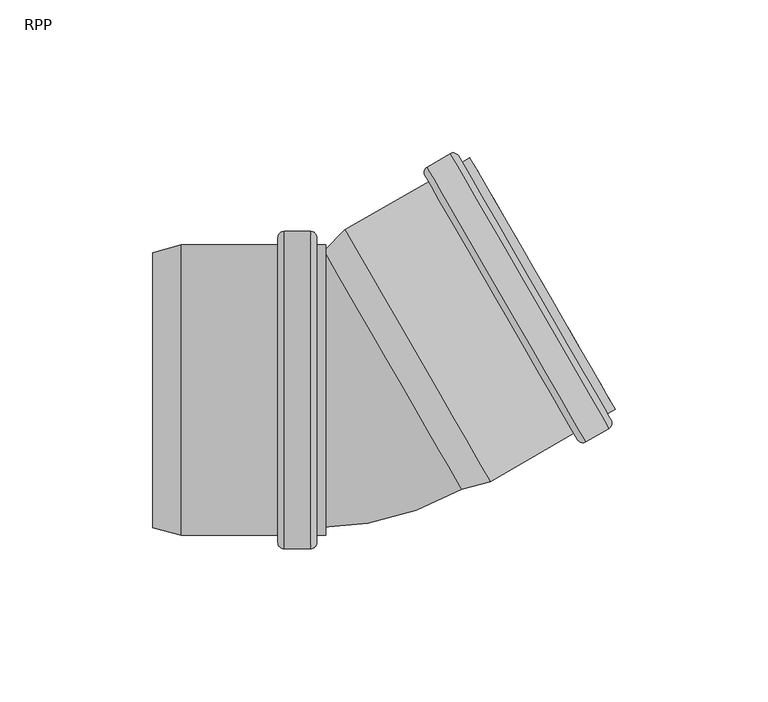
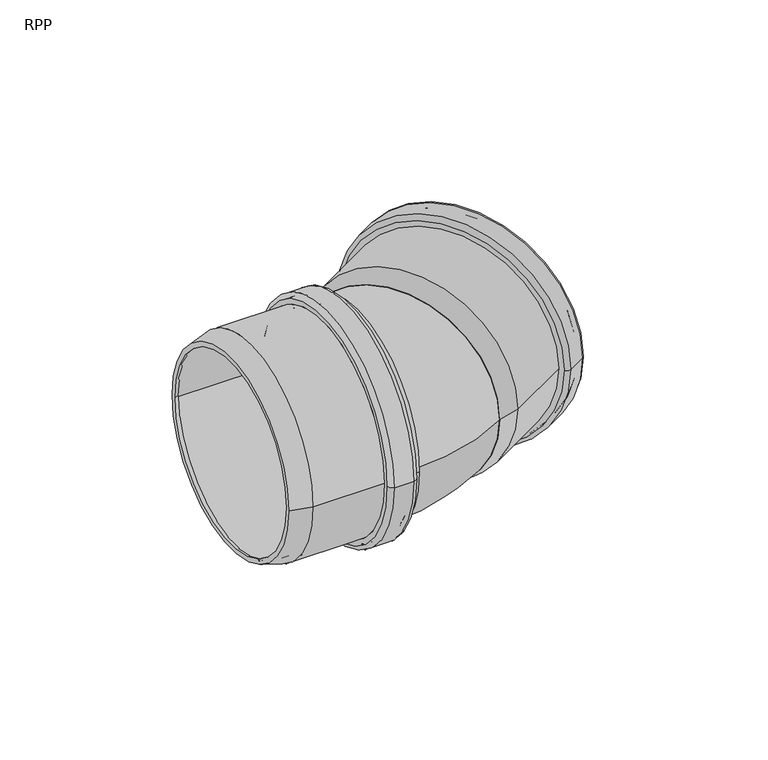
"""IFC4 building model written with IfcOpenShell, lengths in millimetres: pipe fitting geometry, RAUPIANO PLUS Bend : RPP."""

import ifcopenshell
import ifcopenshell.guid

model = None  # the IFC model being written
_history = None  # IfcOwnerHistory: only IFC2X3 demands one
_inside = {}  # id of a spatial element -> (the spatial element, [elements in it])
_under = {}  # id of a project, library or spatial element -> (it, [spatial elements below it])
_declared = {}  # id of a project -> (the project, [libraries it declares])
_typed = {}  # id of a type object -> (the type object, [elements of that type])
_made_of = {}  # id of a material, layer set ... -> (it, [elements and type objects made of it])


def new_model(schema):
    """Start an empty IFC model of exactly this schema.

    Asked for "IFC4X3", IfcOpenShell would pick the latest addendum, in which some entities
    have other attributes; the version numbers below select the first issue.
    IFC2X3 requires an IfcOwnerHistory on every rooted entity: one is made here for all.
    """
    global model, _history
    if schema == "IFC4X3":
        model = ifcopenshell.file(schema_version=(4, 3, 0, 0))
    else:
        model = ifcopenshell.file(schema=schema)
    _inside.clear()
    _under.clear()
    _declared.clear()
    _typed.clear()
    _made_of.clear()
    _history = None
    if model.schema == "IFC2X3":
        org = make("IfcOrganization", Name="unknown")
        user = make(
            "IfcPersonAndOrganization",
            ThePerson=make("IfcPerson", FamilyName="unknown"),
            TheOrganization=org,
        )
        app = make(
            "IfcApplication",
            ApplicationDeveloper=org,
            Version="unknown",
            ApplicationFullName="unknown",
            ApplicationIdentifier="unknown",
        )
        _history = make(
            "IfcOwnerHistory",
            OwningUser=user,
            OwningApplication=app,
            ChangeAction="ADDED",
            CreationDate=0,
        )
    return model


def make(cls, **values):
    """One entity of the class cls with the attributes given. An attribute that is None is left unset."""
    return model.create_entity(
        cls, **{name: value for name, value in values.items() if value is not None}
    )


def rooted(cls, **values):
    """An entity with a GlobalId (a new one), such as an element, a storey or a relation."""
    return make(cls, GlobalId=ifcopenshell.guid.new(), OwnerHistory=_history, **values)


def si_unit(unit_type, name, prefix=None):
    """IfcSIUnit, for example si_unit("LENGTHUNIT", "METRE", prefix="MILLI")."""
    return make("IfcSIUnit", UnitType=unit_type, Prefix=prefix, Name=name)


def assignment(units):
    """IfcUnitAssignment: the units of a project."""
    return None if units is None else make("IfcUnitAssignment", Units=units)


def point(xyz):
    """IfcCartesianPoint."""
    return None if xyz is None else make("IfcCartesianPoint", Coordinates=xyz)


def direction(xyz):
    """IfcDirection."""
    return None if xyz is None else make("IfcDirection", DirectionRatios=xyz)


def frame(location, z_axis=None, x_axis=None):
    """IfcAxis2Placement3D, a coordinate frame: its origin and axes. An axis left out is left unset."""
    return make(
        "IfcAxis2Placement3D",
        Location=point(location),
        Axis=direction(z_axis),
        RefDirection=direction(x_axis),
    )


def origin():
    """The frame at (0, 0, 0) with its axes left unset."""
    return frame((0.0, 0.0, 0.0))


def place(relative_to, where):
    """IfcLocalPlacement: puts the frame where relative to a parent placement (None: the world)."""
    return make(
        "IfcLocalPlacement", PlacementRelTo=relative_to, RelativePlacement=where
    )


def context(
    kind, dimensions, precision=None, world=None, true_north=None, identifier=None
):
    """IfcGeometricRepresentationContext, for example the 3D "Model" context."""
    return make(
        "IfcGeometricRepresentationContext",
        ContextIdentifier=identifier,
        ContextType=kind,
        CoordinateSpaceDimension=dimensions,
        Precision=precision,
        WorldCoordinateSystem=world,
        TrueNorth=true_north,
    )


def project(units=None, contexts=None):
    """IfcProject with its units and contexts."""
    return rooted(
        "IfcProject",
        Name="project",
        RepresentationContexts=contexts,
        UnitsInContext=assignment(units),
    )


def spatial(cls, under=None, at=None, **own):
    """A site, building, storey or space (cls), placed at a placement, below another one or the project."""
    s = rooted(cls, ObjectPlacement=at, **own)
    if under is not None:
        _under.setdefault(under.id(), (under, []))[1].append(s)
    return s


def polyline(points):
    """IfcPolyline through the points."""
    return make("IfcPolyline", Points=[point(p) for p in points])


def circle_curve(where, radius):
    """IfcCircle in the frame where."""
    return make("IfcCircle", Position=where, Radius=radius)


def ellipse_curve(where, semi_axis1, semi_axis2):
    """IfcEllipse in the frame where."""
    return make(
        "IfcEllipse", Position=where, SemiAxis1=semi_axis1, SemiAxis2=semi_axis2
    )


def trimmed(basis, trim1, trim2, sense, master):
    """IfcTrimmedCurve: the piece of a basis curve between two trims."""
    return make(
        "IfcTrimmedCurve",
        BasisCurve=basis,
        Trim1=trim1,
        Trim2=trim2,
        SenseAgreement=sense,
        MasterRepresentation=master,
    )


def shape(context_of_items, identifier, shape_type, items):
    """IfcShapeRepresentation: the items that make up one representation, for example the "Body"."""
    return make(
        "IfcShapeRepresentation",
        ContextOfItems=context_of_items,
        RepresentationIdentifier=identifier,
        RepresentationType=shape_type,
        Items=items,
    )


def source(mapping_origin, context_of_items, identifier, shape_type, items):
    """IfcRepresentationMap: a shape defined once, which mapped items show again and again."""
    return make(
        "IfcRepresentationMap",
        MappingOrigin=mapping_origin,
        MappedRepresentation=shape(context_of_items, identifier, shape_type, items),
    )


def transform(
    local_origin,
    x_axis=None,
    y_axis=None,
    z_axis=None,
    scale=None,
    scale2=None,
    scale3=None,
    uniform=True,
):
    """IfcCartesianTransformationOperator3D, or its non-uniform kind. x_axis, y_axis, z_axis: its Axis1, 2, 3."""
    if uniform:
        return make(
            "IfcCartesianTransformationOperator3D",
            Axis1=direction(x_axis),
            Axis2=direction(y_axis),
            LocalOrigin=point(local_origin),
            Scale=scale,
            Axis3=direction(z_axis),
        )
    return make(
        "IfcCartesianTransformationOperator3DnonUniform",
        Axis1=direction(x_axis),
        Axis2=direction(y_axis),
        LocalOrigin=point(local_origin),
        Scale=scale,
        Axis3=direction(z_axis),
        Scale2=scale2,
        Scale3=scale3,
    )


def mapped(mapping_source, mapping_target):
    """IfcMappedItem: shows the shape of a source again, moved by a transform."""
    return make(
        "IfcMappedItem", MappingSource=mapping_source, MappingTarget=mapping_target
    )


def made_of(thing, what):
    """Note that an element or type object is made of a material, layer set ...; save() writes the relation."""
    if what is not None:
        _made_of.setdefault(what.id(), (what, []))[1].append(thing)
    return thing


def element(
    cls,
    number,
    at=None,
    inside=None,
    cuts=None,
    type_object=None,
    material=None,
    context=None,
    identifier="Body",
    shape_type=None,
    held_by="IfcProductDefinitionShape",
    body=None,
    shapes=None,
    **own,
):
    """One element of the class cls, such as IfcWall. Its Tag is "e" and its number.

    at: its placement. inside: the storey or other place that contains it. cuts: it is an
    opening in that element (IfcRelVoidsElement). A single representation is given by context,
    identifier, shape_type and body (its items); several are given by shapes. held_by: the class
    of the entity that holds the representations. save() writes the other relations.
    """
    e = rooted(cls, Tag="e%d" % number, ObjectPlacement=at, **own)
    if body is not None:
        shapes = [shape(context, identifier, shape_type, body)]
    if shapes is not None:
        e.Representation = make(held_by, Representations=shapes)
    if inside is not None:
        _inside.setdefault(inside.id(), (inside, []))[1].append(e)
    if cuts is not None:
        rooted(
            "IfcRelVoidsElement", RelatingBuildingElement=cuts, RelatedOpeningElement=e
        )
    if type_object is not None:
        _typed.setdefault(type_object.id(), (type_object, []))[1].append(e)
    return made_of(e, material)


def aggregate(whole, parts):
    """IfcRelAggregates: a whole, such as a stair, and the parts it consists of."""
    return rooted("IfcRelAggregates", RelatingObject=whole, RelatedObjects=parts)


def save(model, path):
    """Write the relations noted so far, then the file.

    IfcRelAggregates (storeys below a building ...), IfcRelContainedInSpatialStructure (elements
    in a storey), IfcRelDefinesByType, IfcRelAssociatesMaterial and IfcRelDeclares: one each for
    every whole, place, type object, material and project.
    """
    for whole, parts in _under.values():
        aggregate(whole, parts)
    for where, things in _inside.values():
        rooted(
            "IfcRelContainedInSpatialStructure",
            RelatedElements=things,
            RelatingStructure=where,
        )
    for kind, things in _typed.values():
        rooted("IfcRelDefinesByType", RelatedObjects=things, RelatingType=kind)
    for what, things in _made_of.values():
        rooted("IfcRelAssociatesMaterial", RelatedObjects=things, RelatingMaterial=what)
    for by, libraries in _declared.values():
        rooted("IfcRelDeclares", RelatingContext=by, RelatedDefinitions=libraries)
    model.write(path)


def plane_surface(at):
    """IfcPlane: the flat surface through the origin of the frame at, square to its z axis."""
    return make("IfcPlane", Position=at)


def cylinder_surface(at, radius):
    """IfcCylindricalSurface: all points at the distance radius from the z axis of the frame at."""
    return make("IfcCylindricalSurface", Position=at, Radius=radius)


def revolved_surface(curve, axis_point, axis_direction):
    """IfcSurfaceOfRevolution: the curve turned about the line through axis_point along axis_direction."""
    return make(
        "IfcSurfaceOfRevolution",
        SweptCurve=make("IfcArbitraryOpenProfileDef", ProfileType="CURVE", Curve=curve),
        AxisPosition=make("IfcAxis1Placement", Location=point(axis_point), Axis=direction(axis_direction)),
    )


def advanced_brep(points, edges, surfaces, faces):
    """IfcAdvancedBrep: a solid bounded by faces that lie on surfaces and meet in shared edges.

    An edge is (start, end): straight between two places in points (the first is 0);
    or (start, end, curve); or (start, end, curve, False) where it runs against its curve.
    A face is (place in surfaces, loops), or (place, loops, False) where it looks against
    its surface's normal. A loop lists edges by number (the first is 1), with a minus sign
    where the edge is run from its end to its start. The first loop is the outer one.
    """
    corners = [point(p) for p in points]
    vertices = [make("IfcVertexPoint", VertexGeometry=c) for c in corners]
    made = []
    for start, end, *more in edges:
        made.append(
            make(
                "IfcEdgeCurve",
                EdgeStart=vertices[start],
                EdgeEnd=vertices[end],
                EdgeGeometry=more[0] if more else make("IfcPolyline", Points=[corners[start], corners[end]]),
                SameSense=more[1] if len(more) > 1 else True,
            )
        )
    hull = []
    for where, loops, *sense in faces:
        bounds = []
        for j, loop in enumerate(loops):
            ring = [make("IfcOrientedEdge", EdgeElement=made[abs(k) - 1], Orientation=k > 0) for k in loop]
            bounds.append(
                make(
                    "IfcFaceOuterBound" if j == 0 else "IfcFaceBound",
                    Bound=make("IfcEdgeLoop", EdgeList=ring),
                    Orientation=True,
                )
            )
        hull.append(make("IfcAdvancedFace", Bounds=bounds, FaceSurface=surfaces[where], SameSense=sense[0] if sense else True))
    return make("IfcAdvancedBrep", Outer=make("IfcClosedShell", CfsFaces=hull))


def rpp_570f9ba4(model_context):
    return source(origin(), model_context, "Body", "AdvancedBrep", [
        advanced_brep(
        [(-24.0295104, -45.3, 0.0), (-24.0295104, 45.3, 0.0), (-57.5097479, 45.3, 0.0), (-57.5097479, -45.3, 0.0), (-23.5295104, -49.7, 0.0), (-23.5295104, 49.7, 0.0), (-24.0295104, 49.2, 0.0), (-24.0295104, -49.2, 0.0), (-16.2295104, -49.7, 0.0), (-16.2295104, 49.7, 0.0), (-15.7295104, -49.2, 0.0), (-15.7295104, 49.2, 0.0), (-10.6295104, -45.3, 0.0), (-10.6295104, 45.3, 0.0), (-15.7295104, 45.3, 0.0), (-15.7295104, -45.3, 0.0), (-13.5295104, -47.5, 0.0), (-13.5295104, 47.5, 0.0), (-10.6295104, 47.5, 0.0), (-10.6295104, -47.5, 0.0), (-15.5295104, -51.9, 0.0), (-15.5295104, 51.9, 0.0), (-13.5295104, 49.9, 0.0), (-13.5295104, -49.9, 0.0), (-24.2295104, -51.9, 0.0), (-24.2295104, 51.9, 0.0), (-26.2295104, -49.9, 0.0), (-26.2295104, 49.9, 0.0), (-57.7993834, -47.5, 0.0), (-57.7993834, 47.5, 0.0), (-26.2295104, 47.5, 0.0), (-26.2295104, -47.5, 0.0), (-67.1295104, -45.0, 0.0), (-67.1295104, 45.0, 0.0), (-67.1295104, 42.7223924, 0.0), (-67.1295104, -42.7223924, 0.0)],
        [
            (0, 1, circle_curve(frame((-24.0295104, 0.0, 0.0), z_axis=(1.0, 0.0, 0.0), x_axis=(0.0, 1.0, 0.0)), 45.3)),
            (1, 2),
            (2, 3, circle_curve(frame((-57.5097479, 0.0, 0.0), z_axis=(-1.0, 0.0, 0.0), x_axis=(0.0, 1.0, 0.0)), 45.3)),
            (3, 0),
            (4, 5, circle_curve(frame((-23.5295104, 0.0, 0.0), z_axis=(1.0, 0.0, 0.0), x_axis=(0.0, 1.0, 0.0)), 49.7)),
            (5, 6, circle_curve(frame((-23.5295104, 49.2, 0.0), z_axis=(0.0, 0.0, 1.0), x_axis=(0.0, -1.0, 0.0)), 0.5)),
            (6, 7, circle_curve(frame((-24.0295104, 0.0, 0.0), z_axis=(-1.0, 0.0, 0.0), x_axis=(0.0, 1.0, 0.0)), 49.2)),
            (7, 4, circle_curve(frame((-23.5295104, -49.2, 0.0), z_axis=(0.0, 0.0, 1.0), x_axis=(0.0, 1.0, 0.0)), 0.5)),
            (8, 9, circle_curve(frame((-16.2295104, 0.0, 0.0), z_axis=(1.0, 0.0, 0.0), x_axis=(0.0, 1.0, 0.0)), 49.7)),
            (9, 5),
            (4, 8),
            (10, 11, circle_curve(frame((-15.7295104, 0.0, 0.0), z_axis=(1.0, 0.0, 0.0), x_axis=(0.0, 1.0, 0.0)), 49.2)),
            (11, 9, circle_curve(frame((-16.2295104, 49.2, 0.0), z_axis=(0.0, 0.0, 1.0), x_axis=(0.0, -1.0, 0.0)), 0.5)),
            (8, 10, circle_curve(frame((-16.2295104, -49.2, 0.0), z_axis=(0.0, 0.0, 1.0), x_axis=(0.0, 1.0, 0.0)), 0.5)),
            (12, 13, circle_curve(frame((-10.6295104, 0.0, 0.0), z_axis=(1.0, 0.0, 0.0), x_axis=(0.0, 1.0, 0.0)), 45.3)),
            (13, 14),
            (14, 15, circle_curve(frame((-15.7295104, 0.0, 0.0), z_axis=(-1.0, 0.0, 0.0), x_axis=(0.0, 1.0, 0.0)), 45.3)),
            (15, 12),
            (16, 17, circle_curve(frame((-13.5295104, 0.0, 0.0), z_axis=(1.0, 0.0, 0.0), x_axis=(0.0, 1.0, 0.0)), 47.5)),
            (17, 18),
            (18, 19, circle_curve(frame((-10.6295104, 0.0, 0.0), z_axis=(-1.0, 0.0, 0.0), x_axis=(0.0, 1.0, 0.0)), 47.5)),
            (19, 16),
            (20, 21, circle_curve(frame((-15.5295104, 0.0, 0.0), z_axis=(1.0, 0.0, 0.0), x_axis=(0.0, 1.0, 0.0)), 51.9)),
            (21, 22, circle_curve(frame((-15.5295104, 49.9, 0.0), z_axis=(0.0, 0.0, -1.0), x_axis=(0.0, -1.0, 0.0)), 2.0)),
            (22, 23, circle_curve(frame((-13.5295104, 0.0, 0.0), z_axis=(-1.0, 0.0, 0.0), x_axis=(0.0, 1.0, 0.0)), 49.9)),
            (23, 20, circle_curve(frame((-15.5295104, -49.9, 0.0), z_axis=(0.0, 0.0, -1.0), x_axis=(0.0, 1.0, 0.0)), 2.0)),
            (24, 25, circle_curve(frame((-24.2295104, 0.0, 0.0), z_axis=(1.0, 0.0, 0.0), x_axis=(0.0, 1.0, 0.0)), 51.9)),
            (25, 21),
            (20, 24),
            (26, 27, circle_curve(frame((-26.2295104, 0.0, 0.0), z_axis=(1.0, 0.0, 0.0), x_axis=(0.0, 1.0, 0.0)), 49.9)),
            (27, 25, circle_curve(frame((-24.2295104, 49.9, 0.0), z_axis=(0.0, 0.0, -1.0), x_axis=(0.0, -1.0, 0.0)), 2.0)),
            (24, 26, circle_curve(frame((-24.2295104, -49.9, 0.0), z_axis=(0.0, 0.0, -1.0), x_axis=(0.0, 1.0, 0.0)), 2.0)),
            (28, 29, circle_curve(frame((-57.7993834, 0.0, 0.0), z_axis=(1.0, 0.0, 0.0), x_axis=(0.0, 1.0, 0.0)), 47.5)),
            (29, 30),
            (30, 31, circle_curve(frame((-26.2295104, 0.0, 0.0), z_axis=(-1.0, 0.0, 0.0), x_axis=(0.0, 1.0, 0.0)), 47.5)),
            (31, 28),
            (32, 33, circle_curve(frame((-67.1295104, 0.0, 0.0), z_axis=(1.0, 0.0, 0.0), x_axis=(0.0, 1.0, 0.0)), 45.0)),
            (33, 29),
            (28, 32),
            (2, 34),
            (34, 35, circle_curve(frame((-67.1295104, 0.0, 0.0), z_axis=(-1.0, 0.0, 0.0), x_axis=(0.0, 1.0, 0.0)), 42.7223924)),
            (35, 3),
            (1, 0, circle_curve(frame((-24.0295104, 0.0, 0.0), z_axis=(1.0, 0.0, 0.0), x_axis=(0.0, -1.0, 0.0)), 45.3)),
            (3, 2, circle_curve(frame((-57.5097479, 0.0, 0.0), z_axis=(-1.0, 0.0, 0.0), x_axis=(0.0, -1.0, 0.0)), 45.3)),
            (6, 7, circle_curve(frame((-24.0295104, 0.0, 0.0), z_axis=(1.0, 0.0, 0.0), x_axis=(0.0, -1.0, 0.0)), 49.2)),
            (5, 4, circle_curve(frame((-23.5295104, 0.0, 0.0), z_axis=(1.0, 0.0, 0.0), x_axis=(0.0, -1.0, 0.0)), 49.7)),
            (9, 8, circle_curve(frame((-16.2295104, 0.0, 0.0), z_axis=(1.0, 0.0, 0.0), x_axis=(0.0, -1.0, 0.0)), 49.7)),
            (11, 10, circle_curve(frame((-15.7295104, 0.0, 0.0), z_axis=(1.0, 0.0, 0.0), x_axis=(0.0, -1.0, 0.0)), 49.2)),
            (14, 15, circle_curve(frame((-15.7295104, 0.0, 0.0), z_axis=(1.0, 0.0, 0.0), x_axis=(0.0, -1.0, 0.0)), 45.3)),
            (13, 12, circle_curve(frame((-10.6295104, 0.0, 0.0), z_axis=(1.0, 0.0, 0.0), x_axis=(0.0, -1.0, 0.0)), 45.3)),
            (18, 19, circle_curve(frame((-10.6295104, 0.0, 0.0), z_axis=(1.0, 0.0, 0.0), x_axis=(0.0, -1.0, 0.0)), 47.5)),
            (17, 16, circle_curve(frame((-13.5295104, 0.0, 0.0), z_axis=(1.0, 0.0, 0.0), x_axis=(0.0, -1.0, 0.0)), 47.5)),
            (22, 23, circle_curve(frame((-13.5295104, 0.0, 0.0), z_axis=(1.0, 0.0, 0.0), x_axis=(0.0, -1.0, 0.0)), 49.9)),
            (21, 20, circle_curve(frame((-15.5295104, 0.0, 0.0), z_axis=(1.0, 0.0, 0.0), x_axis=(0.0, -1.0, 0.0)), 51.9)),
            (25, 24, circle_curve(frame((-24.2295104, 0.0, 0.0), z_axis=(1.0, 0.0, 0.0), x_axis=(0.0, -1.0, 0.0)), 51.9)),
            (27, 26, circle_curve(frame((-26.2295104, 0.0, 0.0), z_axis=(1.0, 0.0, 0.0), x_axis=(0.0, -1.0, 0.0)), 49.9)),
            (30, 31, circle_curve(frame((-26.2295104, 0.0, 0.0), z_axis=(1.0, 0.0, 0.0), x_axis=(0.0, -1.0, 0.0)), 47.5)),
            (29, 28, circle_curve(frame((-57.7993834, 0.0, 0.0), z_axis=(1.0, 0.0, 0.0), x_axis=(0.0, -1.0, 0.0)), 47.5)),
            (33, 32, circle_curve(frame((-67.1295104, 0.0, 0.0), z_axis=(1.0, 0.0, 0.0), x_axis=(0.0, -1.0, 0.0)), 45.0)),
            (34, 35, circle_curve(frame((-67.1295104, 0.0, 0.0), z_axis=(1.0, 0.0, 0.0), x_axis=(0.0, -1.0, 0.0)), 42.7223924)),
        ],
        [
            revolved_surface(polyline([(-57.5097479, 45.3, 0.0), (-24.0295104, 45.3, 0.0)]), (-67.1295104, 0.0, 0.0), (-1.0, 0.0, 0.0)),
            revolved_surface(trimmed(ellipse_curve(frame((-23.5295104, 49.2, 0.0), z_axis=(0.0, 0.0, -1.0), x_axis=(0.0, -1.0, 0.0)), 0.5, 0.5), [point((-24.0295104, 49.2, 0.0))], [point((-23.5295104, 49.7, 0.0))], True, "CARTESIAN"), (-67.1295104, 0.0, 0.0), (-1.0, 0.0, 0.0)),
            revolved_surface(polyline([(-23.5295104, 49.7, 0.0), (-16.229510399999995, 49.7, 0.0)]), (-67.1295104, 0.0, 0.0), (-1.0, 0.0, 0.0)),
            revolved_surface(trimmed(ellipse_curve(frame((-16.2295104, 49.2, 0.0), z_axis=(0.0, 0.0, -1.0), x_axis=(0.0, -1.0, 0.0)), 0.5, 0.5), [point((-16.2295104, 49.7, 0.0))], [point((-15.7295104, 49.2, 0.0))], True, "CARTESIAN"), (-67.1295104, 0.0, 0.0), (-1.0, 0.0, 0.0)),
            revolved_surface(polyline([(-15.729510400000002, 45.3, 0.0), (-10.629510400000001, 45.3, 0.0)]), (-67.1295104, 0.0, 0.0), (-1.0, 0.0, 0.0)),
            cylinder_surface(frame((-67.1295104, 0.0, 0.0), z_axis=(-1.0, 0.0, 0.0), x_axis=(0.0, 1.0, 0.0)), 47.5),
            revolved_surface(trimmed(ellipse_curve(frame((-15.5295104, 49.9, 0.0), z_axis=(0.0, 0.0, 1.0), x_axis=(0.0, -1.0, 0.0)), 2.0, 2.0), [point((-13.5295104, 49.9, 0.0))], [point((-15.5295104, 51.9, 0.0))], True, "CARTESIAN"), (-67.1295104, 0.0, 0.0), (-1.0, 0.0, 0.0)),
            cylinder_surface(frame((-67.1295104, 0.0, 0.0), z_axis=(-1.0, 0.0, 0.0), x_axis=(0.0, 1.0, 0.0)), 51.9),
            revolved_surface(trimmed(ellipse_curve(frame((-24.2295104, 49.9, 0.0), z_axis=(0.0, 0.0, 1.0), x_axis=(0.0, -1.0, 0.0)), 2.0, 2.0), [point((-24.2295104, 51.9, 0.0))], [point((-26.2295104, 49.9, 0.0))], True, "CARTESIAN"), (-67.1295104, 0.0, 0.0), (-1.0, 0.0, 0.0)),
            revolved_surface(polyline([(-57.7993834, 47.5, 0.0), (-67.1295104, 45.0, 0.0)]), (-67.1295104, 0.0, 0.0), (-1.0, 0.0, 0.0)),
            revolved_surface(polyline([(-67.1295104, 42.7223924, 0.0), (-57.5097479, 45.3, 0.0)]), (-67.1295104, 0.0, 0.0), (-1.0, 0.0, 0.0)),
            revolved_surface(polyline([(-57.5097479, -45.3, 0.0), (-24.0295104, -45.3, 0.0)]), (-67.1295104, 0.0, 0.0), (-1.0, 0.0, 0.0)),
            plane_surface(frame((-24.0295104, 0.0, 0.0), z_axis=(1.0, 0.0, 0.0), x_axis=(0.0, -1.0, 0.0))),
            revolved_surface(trimmed(ellipse_curve(frame((-23.5295104, -49.2, 0.0), z_axis=(0.0, 0.0, 1.0), x_axis=(0.0, 1.0, 0.0)), 0.5, 0.5), [point((-24.0295104, -49.2, 0.0))], [point((-23.5295104, -49.7, 0.0))], True, "CARTESIAN"), (-67.1295104, 0.0, 0.0), (-1.0, 0.0, 0.0)),
            revolved_surface(polyline([(-23.5295104, -49.7, 0.0), (-16.229510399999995, -49.7, 0.0)]), (-67.1295104, 0.0, 0.0), (-1.0, 0.0, 0.0)),
            revolved_surface(trimmed(ellipse_curve(frame((-16.2295104, -49.2, 0.0), z_axis=(0.0, 0.0, 1.0), x_axis=(0.0, 1.0, 0.0)), 0.5, 0.5), [point((-16.2295104, -49.7, 0.0))], [point((-15.7295104, -49.2, 0.0))], True, "CARTESIAN"), (-67.1295104, 0.0, 0.0), (-1.0, 0.0, 0.0)),
            plane_surface(frame((-15.7295104, 0.0, 0.0), z_axis=(-1.0, 0.0, 0.0), x_axis=(0.0, -1.0, 0.0))),
            revolved_surface(polyline([(-15.729510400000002, -45.3, 0.0), (-10.629510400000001, -45.3, 0.0)]), (-67.1295104, 0.0, 0.0), (-1.0, 0.0, 0.0)),
            plane_surface(frame((-10.6295104, 0.0, 0.0), z_axis=(1.0, 0.0, 0.0), x_axis=(0.0, -1.0, 0.0))),
            cylinder_surface(frame((-67.1295104, 0.0, 0.0), z_axis=(-1.0, 0.0, 0.0), x_axis=(0.0, -1.0, 0.0)), 47.5),
            plane_surface(frame((-13.5295104, 0.0, 0.0), z_axis=(1.0, 0.0, 0.0), x_axis=(0.0, -1.0, 0.0))),
            revolved_surface(trimmed(ellipse_curve(frame((-15.5295104, -49.9, 0.0), z_axis=(0.0, 0.0, -1.0), x_axis=(0.0, 1.0, 0.0)), 2.0, 2.0), [point((-13.5295104, -49.9, 0.0))], [point((-15.5295104, -51.9, 0.0))], True, "CARTESIAN"), (-67.1295104, 0.0, 0.0), (-1.0, 0.0, 0.0)),
            cylinder_surface(frame((-67.1295104, 0.0, 0.0), z_axis=(-1.0, 0.0, 0.0), x_axis=(0.0, -1.0, 0.0)), 51.9),
            revolved_surface(trimmed(ellipse_curve(frame((-24.2295104, -49.9, 0.0), z_axis=(0.0, 0.0, -1.0), x_axis=(0.0, 1.0, 0.0)), 2.0, 2.0), [point((-24.2295104, -51.9, 0.0))], [point((-26.2295104, -49.9, 0.0))], True, "CARTESIAN"), (-67.1295104, 0.0, 0.0), (-1.0, 0.0, 0.0)),
            plane_surface(frame((-26.2295104, 0.0, 0.0), z_axis=(-1.0, 0.0, 0.0), x_axis=(0.0, -1.0, 0.0))),
            revolved_surface(polyline([(-57.7993834, -47.5, 0.0), (-67.1295104, -45.0, 0.0)]), (-67.1295104, 0.0, 0.0), (-1.0, 0.0, 0.0)),
            plane_surface(frame((-67.1295104, 0.0, 0.0), z_axis=(-1.0, 0.0, 0.0), x_axis=(0.0, -1.0, 0.0))),
            revolved_surface(polyline([(-67.1295104, -42.7223924, 0.0), (-57.5097479, -45.3, 0.0)]), (-67.1295104, 0.0, 0.0), (-1.0, 0.0, 0.0)),
        ],
        [
            (0, [[1, 2, 3, 4]]),
            (1, [[5, 6, 7, 8]]),
            (2, [[9, 10, -5, 11]]),
            (3, [[12, 13, -9, 14]]),
            (4, [[15, 16, 17, 18]]),
            (5, [[19, 20, 21, 22]]),
            (6, [[23, 24, 25, 26]]),
            (7, [[27, 28, -23, 29]]),
            (8, [[30, 31, -27, 32]]),
            (5, [[33, 34, 35, 36]]),
            (9, [[37, 38, -33, 39]]),
            (10, [[-3, 40, 41, 42]]),
            (11, [[43, -4, 44, -2]]),
            (12, [[45, -7], [-43, -1]]),
            (13, [[46, -8, -45, -6]]),
            (14, [[47, -11, -46, -10]]),
            (15, [[48, -14, -47, -13]]),
            (16, [[-48, -12], [49, -17]]),
            (17, [[50, -18, -49, -16]]),
            (18, [[51, -21], [-50, -15]]),
            (19, [[52, -22, -51, -20]]),
            (20, [[53, -25], [-52, -19]]),
            (21, [[54, -26, -53, -24]]),
            (22, [[55, -29, -54, -28]]),
            (23, [[56, -32, -55, -31]]),
            (24, [[-56, -30], [57, -35]]),
            (19, [[58, -36, -57, -34]]),
            (25, [[59, -39, -58, -38]]),
            (26, [[-59, -37], [60, -41]]),
            (27, [[-44, -42, -60, -40]]),
        ],
    ),
        advanced_brep(
        [(32.7316858, -30.4339219, 0.0), (-9.9907066, 43.5634323, 0.0), (-2.9485517, 50.6055873, 0.0), (42.3514483, -27.8563143, 0.0), (43.2006166, -29.906388, 0.0), (-4.2993834, 52.3660254, 0.0), (-11.1295104, 45.5358984, 0.0), (33.8704896, -32.406388, 0.0), (70.5409286, -14.1214515, 0.0), (23.0409286, 68.1509619, 0.0), (82.0074004, -12.5819632, 0.0), (30.1074004, 77.3114737, 0.0), (22.5729794, 72.9614737, 0.0), (74.4729794, -16.9319632, 0.0), (84.0509249, -6.3214515, 0.0), (36.5509249, 75.9509619, 0.0), (34.0394512, 74.5009619, 0.0), (81.5394512, -7.7714515, 0.0), (78.5341953, -6.9661956, 0.0), (33.2341953, 71.495706, 0.0), (37.6509249, 74.045706, 0.0), (82.9509249, -4.4161956, 0.0), (73.9791972, -14.6767074, 0.0), (24.2791972, 71.4062178, 0.0), (30.6011826, 75.0562178, 0.0), (80.3011826, -11.0267074, 0.0), (26.0461845, 67.345706, 0.0), (71.3461845, -11.1161956, 0.0), (21.8409286, 70.2294229, 0.0), (71.7409286, -16.1999124, 0.0), (82.7394512, -9.8499124, 0.0), (32.8394512, 76.5794229, 0.0), (31.2841953, 74.8732051, 0.0), (80.4841953, -10.3436947, 0.0), (73.2961845, -14.4936947, 0.0), (24.0961845, 70.7232051, 0.0)],
        [
            (0, 1, circle_curve(frame((11.3704896, 6.5647552, 0.0), z_axis=(-0.866025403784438, -0.5000000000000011, 0.0), x_axis=(-0.5000000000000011, 0.866025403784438, 0.0)), 42.7223924)),
            (1, 2),
            (2, 3, circle_curve(frame((19.7014483, 11.3746365, 0.0), z_axis=(0.866025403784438, 0.5000000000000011, 0.0), x_axis=(-0.5000000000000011, 0.866025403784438, 0.0)), 45.3)),
            (3, 0),
            (4, 5, circle_curve(frame((19.4506166, 11.2298187, 0.0), z_axis=(-0.866025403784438, -0.5000000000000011, 0.0), x_axis=(-0.5000000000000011, 0.866025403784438, 0.0)), 47.5)),
            (5, 6),
            (6, 7, circle_curve(frame((11.3704896, 6.5647552, 0.0), z_axis=(0.866025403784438, 0.5000000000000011, 0.0), x_axis=(-0.5000000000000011, 0.866025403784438, 0.0)), 45.0)),
            (7, 4),
            (8, 9, circle_curve(frame((46.7909286, 27.0147552, 0.0), z_axis=(-0.866025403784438, -0.5000000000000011, 0.0), x_axis=(-0.5000000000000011, 0.866025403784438, 0.0)), 47.5)),
            (9, 5),
            (4, 8),
            (10, 11, circle_curve(frame((56.0574004, 32.3647552, 0.0), z_axis=(-0.866025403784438, -0.5000000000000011, 0.0), x_axis=(-0.5000000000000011, 0.866025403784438, 0.0)), 51.9)),
            (11, 12),
            (12, 13, circle_curve(frame((48.5229794, 28.0147552, 0.0), z_axis=(0.866025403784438, 0.5000000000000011, 0.0), x_axis=(-0.5000000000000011, 0.866025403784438, 0.0)), 51.9)),
            (13, 10),
            (14, 15, circle_curve(frame((60.3009249, 34.8147552, 0.0), z_axis=(-0.866025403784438, -0.5000000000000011, 0.0), x_axis=(-0.5000000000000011, 0.866025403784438, 0.0)), 47.5)),
            (15, 16),
            (16, 17, circle_curve(frame((57.7894512, 33.3647552, 0.0), z_axis=(0.866025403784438, 0.5000000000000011, 0.0), x_axis=(-0.5000000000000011, 0.866025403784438, 0.0)), 47.5)),
            (17, 14),
            (18, 19, circle_curve(frame((55.8841953, 32.2647552, 0.0), z_axis=(-0.866025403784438, -0.5000000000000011, 0.0), x_axis=(-0.5000000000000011, 0.866025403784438, 0.0)), 45.3)),
            (19, 20),
            (20, 21, circle_curve(frame((60.3009249, 34.8147552, 0.0), z_axis=(0.866025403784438, 0.5000000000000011, 0.0), x_axis=(-0.5000000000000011, 0.866025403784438, 0.0)), 45.3)),
            (21, 18),
            (22, 23, circle_curve(frame((49.1291972, 28.3647552, 0.0), z_axis=(-0.866025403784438, -0.5000000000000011, 0.0), x_axis=(-0.5000000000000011, 0.866025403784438, 0.0)), 49.7)),
            (23, 24),
            (24, 25, circle_curve(frame((55.4511826, 32.0147552, 0.0), z_axis=(0.866025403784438, 0.5000000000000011, 0.0), x_axis=(-0.5000000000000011, 0.866025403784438, 0.0)), 49.7)),
            (25, 22),
            (2, 26),
            (26, 27, circle_curve(frame((48.6961845, 28.1147552, 0.0), z_axis=(0.866025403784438, 0.5000000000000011, 0.0), x_axis=(-0.5000000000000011, 0.866025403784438, 0.0)), 45.3)),
            (27, 3),
            (1, 0, circle_curve(frame((11.3704896, 6.5647552, 0.0), z_axis=(-0.866025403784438, -0.5000000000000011, 0.0), x_axis=(0.5000000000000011, -0.866025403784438, 0.0)), 42.7223924)),
            (3, 2, circle_curve(frame((19.7014483, 11.3746365, 0.0), z_axis=(0.866025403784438, 0.5000000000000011, 0.0), x_axis=(0.5000000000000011, -0.866025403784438, 0.0)), 45.3)),
            (6, 7, circle_curve(frame((11.3704896, 6.5647552, 0.0), z_axis=(-0.866025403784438, -0.5000000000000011, 0.0), x_axis=(0.5000000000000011, -0.866025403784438, 0.0)), 45.0)),
            (5, 4, circle_curve(frame((19.4506166, 11.2298187, 0.0), z_axis=(-0.866025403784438, -0.5000000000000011, 0.0), x_axis=(0.5000000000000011, -0.866025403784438, 0.0)), 47.5)),
            (9, 8, circle_curve(frame((46.7909286, 27.0147552, 0.0), z_axis=(-0.866025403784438, -0.5000000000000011, 0.0), x_axis=(0.5000000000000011, -0.866025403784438, 0.0)), 47.5)),
            (28, 29, circle_curve(frame((46.7909286, 27.0147552, 0.0), z_axis=(-0.866025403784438, -0.5000000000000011, 0.0), x_axis=(0.5000000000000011, -0.866025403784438, 0.0)), 49.9)),
            (29, 28, circle_curve(frame((46.7909286, 27.0147552, 0.0), z_axis=(-0.866025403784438, -0.5000000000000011, 0.0), x_axis=(-0.5000000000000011, 0.866025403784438, 0.0)), 49.9)),
            (11, 10, circle_curve(frame((56.0574004, 32.3647552, 0.0), z_axis=(-0.866025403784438, -0.5000000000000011, 0.0), x_axis=(0.5000000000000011, -0.866025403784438, 0.0)), 51.9)),
            (13, 12, circle_curve(frame((48.5229794, 28.0147552, 0.0), z_axis=(0.866025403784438, 0.5000000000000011, 0.0), x_axis=(0.5000000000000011, -0.866025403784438, 0.0)), 51.9)),
            (30, 31, circle_curve(frame((57.7894512, 33.3647552, 0.0), z_axis=(0.866025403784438, 0.5000000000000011, 0.0), x_axis=(0.5000000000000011, -0.866025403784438, 0.0)), 49.9)),
            (31, 30, circle_curve(frame((57.7894512, 33.3647552, 0.0), z_axis=(0.866025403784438, 0.5000000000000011, 0.0), x_axis=(-0.5000000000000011, 0.866025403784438, 0.0)), 49.9)),
            (16, 17, circle_curve(frame((57.7894512, 33.3647552, 0.0), z_axis=(-0.866025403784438, -0.5000000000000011, 0.0), x_axis=(0.5000000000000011, -0.866025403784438, 0.0)), 47.5)),
            (15, 14, circle_curve(frame((60.3009249, 34.8147552, 0.0), z_axis=(-0.866025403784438, -0.5000000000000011, 0.0), x_axis=(0.5000000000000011, -0.866025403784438, 0.0)), 47.5)),
            (20, 21, circle_curve(frame((60.3009249, 34.8147552, 0.0), z_axis=(-0.866025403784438, -0.5000000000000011, 0.0), x_axis=(0.5000000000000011, -0.866025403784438, 0.0)), 45.3)),
            (19, 18, circle_curve(frame((55.8841953, 32.2647552, 0.0), z_axis=(-0.866025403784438, -0.5000000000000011, 0.0), x_axis=(0.5000000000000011, -0.866025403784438, 0.0)), 45.3)),
            (32, 33, circle_curve(frame((55.8841953, 32.2647552, 0.0), z_axis=(-0.866025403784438, -0.5000000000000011, 0.0), x_axis=(0.5000000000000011, -0.866025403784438, 0.0)), 49.2)),
            (33, 32, circle_curve(frame((55.8841953, 32.2647552, 0.0), z_axis=(-0.866025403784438, -0.5000000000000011, 0.0), x_axis=(-0.5000000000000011, 0.866025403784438, 0.0)), 49.2)),
            (23, 22, circle_curve(frame((49.1291972, 28.3647552, 0.0), z_axis=(-0.866025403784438, -0.5000000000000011, 0.0), x_axis=(0.5000000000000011, -0.866025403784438, 0.0)), 49.7)),
            (25, 24, circle_curve(frame((55.4511826, 32.0147552, 0.0), z_axis=(0.866025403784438, 0.5000000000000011, 0.0), x_axis=(0.5000000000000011, -0.866025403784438, 0.0)), 49.7)),
            (34, 35, circle_curve(frame((48.6961845, 28.1147552, 0.0), z_axis=(0.866025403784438, 0.5000000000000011, 0.0), x_axis=(0.5000000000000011, -0.866025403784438, 0.0)), 49.2)),
            (35, 34, circle_curve(frame((48.6961845, 28.1147552, 0.0), z_axis=(0.866025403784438, 0.5000000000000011, 0.0), x_axis=(-0.5000000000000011, 0.866025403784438, 0.0)), 49.2)),
            (26, 27, circle_curve(frame((48.6961845, 28.1147552, 0.0), z_axis=(-0.866025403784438, -0.5000000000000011, 0.0), x_axis=(0.5000000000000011, -0.866025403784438, 0.0)), 45.3)),
            (12, 28, circle_curve(frame((23.5729794, 71.2294229, 0.0), z_axis=(0.0, 0.0, 1.0), x_axis=(0.5000000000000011, -0.866025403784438, 0.0)), 2.0)),
            (29, 13, circle_curve(frame((73.4729794, -15.1999124, 0.0), z_axis=(0.0, 0.0, 1.0), x_axis=(-0.5000000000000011, 0.866025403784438, 0.0)), 2.0)),
            (31, 11, circle_curve(frame((31.1074004, 75.5794229, 0.0), z_axis=(0.0, 0.0, 1.0), x_axis=(0.5000000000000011, -0.866025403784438, 0.0)), 2.0)),
            (10, 30, circle_curve(frame((81.0074004, -10.8499124, 0.0), z_axis=(0.0, 0.0, 1.0), x_axis=(-0.5000000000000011, 0.866025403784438, 0.0)), 2.0)),
            (24, 32, circle_curve(frame((30.8511826, 74.6232051, 0.0), z_axis=(0.0, 0.0, -1.0), x_axis=(0.5000000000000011, -0.866025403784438, 0.0)), 0.5)),
            (33, 25, circle_curve(frame((80.0511826, -10.5936947, 0.0), z_axis=(0.0, 0.0, -1.0), x_axis=(-0.5000000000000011, 0.866025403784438, 0.0)), 0.5)),
            (35, 23, circle_curve(frame((24.5291972, 70.9732051, 0.0), z_axis=(0.0, 0.0, -1.0), x_axis=(0.5000000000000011, -0.866025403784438, 0.0)), 0.5)),
            (22, 34, circle_curve(frame((73.7291972, -14.2436947, 0.0), z_axis=(0.0, 0.0, -1.0), x_axis=(-0.5000000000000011, 0.866025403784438, 0.0)), 0.5)),
        ],
        [
            revolved_surface(polyline([(-2.9485517, 50.6055873, 0.0), (-9.9907066, 43.5634323, 0.0)]), (11.3704896, 6.5647552, 0.0), (0.866025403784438, 0.5000000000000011, 0.0)),
            revolved_surface(polyline([(-11.1295104, 45.5358984, 0.0), (-4.2993834, 52.3660254, 0.0)]), (11.3704896, 6.5647552, 0.0), (0.866025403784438, 0.5000000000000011, 0.0)),
            cylinder_surface(frame((11.3704896, 6.5647552, 0.0), z_axis=(0.866025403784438, 0.5000000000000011, 0.0), x_axis=(-0.5000000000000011, 0.866025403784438, 0.0)), 47.5),
            cylinder_surface(frame((11.3704896, 6.5647552, 0.0), z_axis=(0.866025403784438, 0.5000000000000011, 0.0), x_axis=(-0.5000000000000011, 0.866025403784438, 0.0)), 51.9),
            revolved_surface(polyline([(37.65092490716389, 74.04570598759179, 0.0), (33.23419530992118, 71.49570596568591, 0.0)]), (11.3704896, 6.5647552, 0.0), (0.866025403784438, 0.5000000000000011, 0.0)),
            revolved_surface(polyline([(30.601182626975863, 75.05621775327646, 0.0), (24.279197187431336, 71.40621775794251, 0.0)]), (11.3704896, 6.5647552, 0.0), (0.866025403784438, 0.5000000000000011, 0.0)),
            revolved_surface(polyline([(26.04618450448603, 67.34570599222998, 0.0), (-2.9485516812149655, 50.605587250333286, 0.0)]), (11.3704896, 6.5647552, 0.0), (0.866025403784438, 0.5000000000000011, 0.0)),
            revolved_surface(polyline([(42.3514483, -27.8563143, 0.0), (32.7316858, -30.4339219, 0.0)]), (11.3704896, 6.5647552, 0.0), (0.866025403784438, 0.5000000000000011, 0.0)),
            plane_surface(frame((11.3704896, 6.5647552, 0.0), z_axis=(-0.866025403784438, -0.5000000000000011, 0.0), x_axis=(0.5000000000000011, -0.866025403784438, 0.0))),
            revolved_surface(polyline([(33.8704896, -32.406388, 0.0), (43.2006166, -29.906388, 0.0)]), (11.3704896, 6.5647552, 0.0), (0.866025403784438, 0.5000000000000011, 0.0)),
            cylinder_surface(frame((11.3704896, 6.5647552, 0.0), z_axis=(0.866025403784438, 0.5000000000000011, 0.0), x_axis=(0.5000000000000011, -0.866025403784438, 0.0)), 47.5),
            plane_surface(frame((46.7909286, 27.0147552, 0.0), z_axis=(-0.866025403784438, -0.5000000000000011, 0.0), x_axis=(0.5000000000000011, -0.866025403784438, 0.0))),
            cylinder_surface(frame((11.3704896, 6.5647552, 0.0), z_axis=(0.866025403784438, 0.5000000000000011, 0.0), x_axis=(0.5000000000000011, -0.866025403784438, 0.0)), 51.9),
            plane_surface(frame((57.7894512, 33.3647552, 0.0), z_axis=(0.866025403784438, 0.5000000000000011, 0.0), x_axis=(0.5000000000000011, -0.866025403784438, 0.0))),
            plane_surface(frame((60.3009249, 34.8147552, 0.0), z_axis=(0.866025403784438, 0.5000000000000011, 0.0), x_axis=(0.5000000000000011, -0.866025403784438, 0.0))),
            revolved_surface(polyline([(82.950924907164, -4.416195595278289, 0.0), (78.53419530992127, -6.966195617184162, 0.0)]), (11.3704896, 6.5647552, 0.0), (0.866025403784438, 0.5000000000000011, 0.0)),
            plane_surface(frame((55.8841953, 32.2647552, 0.0), z_axis=(-0.866025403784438, -0.5000000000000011, 0.0), x_axis=(0.5000000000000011, -0.866025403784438, 0.0))),
            revolved_surface(polyline([(80.30118262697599, -11.026707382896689, 0.0), (73.97919718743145, -14.676707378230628, 0.0)]), (11.3704896, 6.5647552, 0.0), (0.866025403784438, 0.5000000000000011, 0.0)),
            plane_surface(frame((48.6961845, 28.1147552, 0.0), z_axis=(0.866025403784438, 0.5000000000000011, 0.0), x_axis=(0.5000000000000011, -0.866025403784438, 0.0))),
            revolved_surface(polyline([(71.34618450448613, -11.1161955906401, 0.0), (42.35144831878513, -27.8563143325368, 0.0)]), (11.3704896, 6.5647552, 0.0), (0.866025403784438, 0.5000000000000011, 0.0)),
            revolved_surface(trimmed(ellipse_curve(frame((23.5729794, 71.2294229, 0.0), z_axis=(0.0, 0.0, -1.0), x_axis=(0.5000000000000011, -0.866025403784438, 0.0)), 2.0, 2.0), [point((21.8409286, 70.2294229, 0.0))], [point((22.5729794, 72.9614737, 0.0))], True, "CARTESIAN"), (11.3704896, 6.5647552, 0.0), (0.866025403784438, 0.5000000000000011, 0.0)),
            revolved_surface(trimmed(ellipse_curve(frame((31.1074004, 75.5794229, 0.0), z_axis=(0.0, 0.0, -1.0), x_axis=(0.5000000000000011, -0.866025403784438, 0.0)), 2.0, 2.0), [point((30.1074004, 77.3114737, 0.0))], [point((32.8394512, 76.5794229, 0.0))], True, "CARTESIAN"), (11.3704896, 6.5647552, 0.0), (0.866025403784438, 0.5000000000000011, 0.0)),
            revolved_surface(trimmed(ellipse_curve(frame((30.8511826, 74.6232051, 0.0), z_axis=(0.0, 0.0, 1.0), x_axis=(0.5000000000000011, -0.866025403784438, 0.0)), 0.5, 0.5), [point((31.2841953, 74.8732051, 0.0))], [point((30.6011826, 75.0562178, 0.0))], True, "CARTESIAN"), (11.3704896, 6.5647552, 0.0), (0.866025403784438, 0.5000000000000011, 0.0)),
            revolved_surface(trimmed(ellipse_curve(frame((24.5291972, 70.9732051, 0.0), z_axis=(0.0, 0.0, 1.0), x_axis=(0.5000000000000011, -0.866025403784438, 0.0)), 0.5, 0.5), [point((24.2791972, 71.4062178, 0.0))], [point((24.0961845, 70.7232051, 0.0))], True, "CARTESIAN"), (11.3704896, 6.5647552, 0.0), (0.866025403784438, 0.5000000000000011, 0.0)),
            revolved_surface(trimmed(ellipse_curve(frame((73.4729794, -15.1999124, 0.0), z_axis=(0.0, 0.0, 1.0), x_axis=(-0.5000000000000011, 0.866025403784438, 0.0)), 2.0, 2.0), [point((71.7409286, -16.1999124, 0.0))], [point((74.4729794, -16.9319632, 0.0))], True, "CARTESIAN"), (11.3704896, 6.5647552, 0.0), (0.866025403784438, 0.5000000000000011, 0.0)),
            revolved_surface(trimmed(ellipse_curve(frame((81.0074004, -10.8499124, 0.0), z_axis=(0.0, 0.0, 1.0), x_axis=(-0.5000000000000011, 0.866025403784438, 0.0)), 2.0, 2.0), [point((82.0074004, -12.5819632, 0.0))], [point((82.7394512, -9.8499124, 0.0))], True, "CARTESIAN"), (11.3704896, 6.5647552, 0.0), (0.866025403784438, 0.5000000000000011, 0.0)),
            revolved_surface(trimmed(ellipse_curve(frame((80.0511826, -10.5936947, 0.0), z_axis=(0.0, 0.0, -1.0), x_axis=(-0.5000000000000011, 0.866025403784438, 0.0)), 0.5, 0.5), [point((80.4841953, -10.3436947, 0.0))], [point((80.3011826, -11.0267074, 0.0))], True, "CARTESIAN"), (11.3704896, 6.5647552, 0.0), (0.866025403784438, 0.5000000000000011, 0.0)),
            revolved_surface(trimmed(ellipse_curve(frame((73.7291972, -14.2436947, 0.0), z_axis=(0.0, 0.0, -1.0), x_axis=(-0.5000000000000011, 0.866025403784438, 0.0)), 0.5, 0.5), [point((73.9791972, -14.6767074, 0.0))], [point((73.2961845, -14.4936947, 0.0))], True, "CARTESIAN"), (11.3704896, 6.5647552, 0.0), (0.866025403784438, 0.5000000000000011, 0.0)),
        ],
        [
            (0, [[1, 2, 3, 4]]),
            (1, [[5, 6, 7, 8]]),
            (2, [[9, 10, -5, 11]]),
            (3, [[12, 13, 14, 15]]),
            (2, [[16, 17, 18, 19]]),
            (4, [[20, 21, 22, 23]]),
            (5, [[24, 25, 26, 27]]),
            (6, [[-3, 28, 29, 30]]),
            (7, [[31, -4, 32, -2]]),
            (8, [[33, -7], [-31, -1]]),
            (9, [[34, -8, -33, -6]]),
            (10, [[35, -11, -34, -10]]),
            (11, [[36, 37], [-35, -9]]),
            (12, [[38, -15, 39, -13]]),
            (13, [[40, 41], [42, -18]]),
            (10, [[43, -19, -42, -17]]),
            (14, [[-43, -16], [44, -22]]),
            (15, [[45, -23, -44, -21]]),
            (16, [[46, 47], [-45, -20]]),
            (17, [[48, -27, 49, -25]]),
            (18, [[50, 51], [52, -29]]),
            (19, [[-32, -30, -52, -28]]),
            (20, [[-14, 53, -37, 54]]),
            (21, [[-41, 55, -12, 56]]),
            (22, [[-26, 57, -47, 58]]),
            (23, [[-51, 59, -24, 60]]),
            (24, [[-39, -54, -36, -53]]),
            (25, [[-40, -56, -38, -55]]),
            (26, [[-49, -58, -46, -57]]),
            (27, [[-50, -60, -48, -59]]),
        ],
    ),
        advanced_brep(
        [(-13.1295104, 42.8, 0.0), (-13.1295104, -42.8, 0.0), (-67.1295104, -42.8, 0.0), (-67.1295104, 42.8, 0.0), (-61.9046393, 45.0, 0.0), (-61.9046393, -45.0, 0.0), (-13.1295104, -45.0, 0.0), (-13.1295104, 45.0, 0.0), (-67.1295104, 43.6, 0.0), (-67.1295104, -43.6, 0.0)],
        [
            (0, 1, circle_curve(frame((-13.1295104, 0.0, 0.0), z_axis=(1.0, 0.0, 0.0), x_axis=(0.0, -1.0, 0.0)), 42.8)),
            (1, 2),
            (2, 3, circle_curve(frame((-67.1295104, 0.0, 0.0), z_axis=(-1.0, 0.0, 0.0), x_axis=(0.0, -1.0, 0.0)), 42.8)),
            (3, 0),
            (4, 5, circle_curve(frame((-61.9046393, 0.0, 0.0), z_axis=(1.0, 0.0, 0.0), x_axis=(0.0, -1.0, 0.0)), 45.0)),
            (5, 6),
            (6, 7, circle_curve(frame((-13.1295104, 0.0, 0.0), z_axis=(-1.0, 0.0, 0.0), x_axis=(0.0, -1.0, 0.0)), 45.0)),
            (7, 4),
            (8, 9, circle_curve(frame((-67.1295104, 0.0, 0.0), z_axis=(1.0, 0.0, 0.0), x_axis=(0.0, -1.0, 0.0)), 43.6)),
            (9, 5),
            (4, 8),
            (1, 0, circle_curve(frame((-13.1295104, 0.0, 0.0), z_axis=(1.0, 0.0, 0.0), x_axis=(0.0, 1.0, 0.0)), 42.8)),
            (3, 2, circle_curve(frame((-67.1295104, 0.0, 0.0), z_axis=(-1.0, 0.0, 0.0), x_axis=(0.0, 1.0, 0.0)), 42.8)),
            (6, 7, circle_curve(frame((-13.1295104, 0.0, 0.0), z_axis=(1.0, 0.0, 0.0), x_axis=(0.0, 1.0, 0.0)), 45.0)),
            (5, 4, circle_curve(frame((-61.9046393, 0.0, 0.0), z_axis=(1.0, 0.0, 0.0), x_axis=(0.0, 1.0, 0.0)), 45.0)),
            (9, 8, circle_curve(frame((-67.1295104, 0.0, 0.0), z_axis=(1.0, 0.0, 0.0), x_axis=(0.0, 1.0, 0.0)), 43.6)),
        ],
        [
            revolved_surface(polyline([(-67.1295104, -42.8, 0.0), (-13.1295104, -42.8, 0.0)]), (-13.1295104, 0.0, 0.0), (-1.0, 0.0, 0.0)),
            cylinder_surface(frame((-13.1295104, 0.0, 0.0), z_axis=(-1.0, 0.0, 0.0), x_axis=(0.0, -1.0, 0.0)), 45.0),
            revolved_surface(polyline([(-61.9046393, -45.0, 0.0), (-67.1295104, -43.6, 0.0)]), (-13.1295104, 0.0, 0.0), (-1.0, 0.0, 0.0)),
            revolved_surface(polyline([(-67.1295104, 42.8, 0.0), (-13.1295104, 42.8, 0.0)]), (-13.1295104, 0.0, 0.0), (-1.0, 0.0, 0.0)),
            plane_surface(frame((-13.1295104, 0.0, 0.0), z_axis=(1.0, 0.0, 0.0), x_axis=(0.0, 1.0, 0.0))),
            cylinder_surface(frame((-13.1295104, 0.0, 0.0), z_axis=(-1.0, 0.0, 0.0), x_axis=(0.0, 1.0, 0.0)), 45.0),
            revolved_surface(polyline([(-61.9046393, 45.0, 0.0), (-67.1295104, 43.6, 0.0)]), (-13.1295104, 0.0, 0.0), (-1.0, 0.0, 0.0)),
            plane_surface(frame((-67.1295104, 0.0, 0.0), z_axis=(-1.0, 0.0, 0.0), x_axis=(0.0, 1.0, 0.0))),
        ],
        [
            (0, [[1, 2, 3, 4]]),
            (1, [[5, 6, 7, 8]]),
            (2, [[9, 10, -5, 11]]),
            (3, [[12, -4, 13, -2]]),
            (4, [[14, -7], [-12, -1]]),
            (5, [[15, -8, -14, -6]]),
            (6, [[16, -11, -15, -10]]),
            (7, [[-16, -9], [-13, -3]]),
        ],
    ),
        advanced_brep(
        [(-13.1295104, -45.0, 0.0), (-13.1295104, 45.0, 0.0), (-13.1295104, -42.8, 0.0), (-13.1295104, 42.8, 0.0), (33.8704896, -32.406388, 0.0), (-11.1295104, 45.5358984, 0.0), (32.7704896, -30.5011321, 0.0), (-10.0295104, 43.6306425, 0.0)],
        [
            (0, 1, circle_curve(frame((-13.1295104, 0.0, 0.0), z_axis=(-1.0, 0.0, 0.0), x_axis=(0.0, 1.0, 0.0)), 45.0)),
            (1, 0, circle_curve(frame((-13.1295104, 0.0, 0.0), z_axis=(-1.0, 0.0, 0.0), x_axis=(0.0, 1.0, 0.0)), 45.0)),
            (2, 3, circle_curve(frame((-13.1295104, 0.0, 0.0), z_axis=(1.0, 0.0, 0.0), x_axis=(0.0, 1.0, 0.0)), 42.8)),
            (3, 2, circle_curve(frame((-13.1295104, 0.0, 0.0), z_axis=(1.0, 0.0, 0.0), x_axis=(0.0, 1.0, 0.0)), 42.8)),
            (4, 5, circle_curve(frame((11.3704896, 6.5647552, 0.0), z_axis=(0.8660254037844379, 0.5000000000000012, 0.0), x_axis=(-0.5000000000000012, 0.8660254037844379, 0.0)), 45.0)),
            (5, 4, circle_curve(frame((11.3704896, 6.5647552, 0.0), z_axis=(0.8660254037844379, 0.5000000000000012, 0.0), x_axis=(-0.5000000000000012, 0.8660254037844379, 0.0)), 45.0)),
            (6, 7, circle_curve(frame((11.3704896, 6.5647552, 0.0), z_axis=(-0.8660254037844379, -0.5000000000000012, 0.0), x_axis=(-0.5000000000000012, 0.8660254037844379, 0.0)), 42.8)),
            (7, 6, circle_curve(frame((11.3704896, 6.5647552, 0.0), z_axis=(-0.8660254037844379, -0.5000000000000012, 0.0), x_axis=(-0.5000000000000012, 0.8660254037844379, 0.0)), 42.8)),
            (7, 3, circle_curve(frame((-13.1295104, 49.0, 0.0), z_axis=(0.0, 0.0, -1.0), x_axis=(0.0, -1.0, 0.0)), 6.2)),
            (2, 6, circle_curve(frame((-13.1295104, 49.0, 0.0), z_axis=(0.0, 0.0, 1.0), x_axis=(0.0, -1.0, 0.0)), 91.8)),
            (5, 1, circle_curve(frame((-13.1295104, 49.0, 0.0), z_axis=(0.0, 0.0, -1.0), x_axis=(0.0, -1.0, 0.0)), 4.0)),
            (0, 4, circle_curve(frame((-13.1295104, 49.0, 0.0), z_axis=(0.0, 0.0, 1.0), x_axis=(0.0, -1.0, 0.0)), 94.0)),
        ],
        [
            plane_surface(frame((-13.1295104, 0.0, 0.0), z_axis=(-1.0, 0.0, 0.0), x_axis=(0.0, 0.0, 1.0))),
            plane_surface(frame((11.3704896, 6.5647552, 0.0), z_axis=(0.866025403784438, 0.5000000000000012, 0.0), x_axis=(0.0, 0.0, 1.0))),
            revolved_surface(trimmed(ellipse_curve(frame((-13.1295104, 0.0, 0.0), z_axis=(1.0, 0.0, 0.0), x_axis=(0.0, 1.0, 0.0)), 42.8, 42.8), [point((-13.1295104, -42.8, 0.0))], [point((-13.1295104, 42.8, 0.0))], True, "CARTESIAN"), (-13.1295104, 49.0, 0.0), (0.0, 0.0, 1.0)),
            revolved_surface(trimmed(ellipse_curve(frame((-13.1295104, 0.0, 0.0), z_axis=(1.0, 0.0, 0.0), x_axis=(0.0, 1.0, 0.0)), 42.8, 42.8), [point((-13.1295104, 42.8, 0.0))], [point((-13.1295104, -42.8, 0.0))], True, "CARTESIAN"), (-13.1295104, 49.0, 0.0), (0.0, 0.0, 1.0)),
            revolved_surface(trimmed(ellipse_curve(frame((-13.1295104, 0.0, 0.0), z_axis=(-1.0, 0.0, 0.0), x_axis=(0.0, 1.0, 0.0)), 45.0, 45.0), [point((-13.1295104, -45.0, 0.0))], [point((-13.1295104, 45.0, 0.0))], True, "CARTESIAN"), (-13.1295104, 49.0, 0.0), (0.0, 0.0, 1.0)),
            revolved_surface(trimmed(ellipse_curve(frame((-13.1295104, 0.0, 0.0), z_axis=(-1.0, 0.0, 0.0), x_axis=(0.0, 1.0, 0.0)), 45.0, 45.0), [point((-13.1295104, 45.0, 0.0))], [point((-13.1295104, -45.0, 0.0))], True, "CARTESIAN"), (-13.1295104, 49.0, 0.0), (0.0, 0.0, 1.0)),
        ],
        [
            (0, [[1, 2], [3, 4]]),
            (1, [[5, 6], [7, 8]]),
            (2, [[9, -3, 10, -8]]),
            (3, [[-10, -4, -9, -7]]),
            (4, [[11, -1, 12, -6]]),
            (5, [[-12, -2, -11, -5]]),
        ],
    ),
    ])


if __name__ == "__main__":
    model = new_model("IFC4")
    model_context = context("Model", 3, world=origin())
    ifc_project = project(units=[si_unit("LENGTHUNIT", "METRE", prefix="MILLI")], contexts=[model_context])
    site = spatial("IfcSite", under=ifc_project)
    building = spatial("IfcBuilding", under=site)
    placement = place(None, origin())
    rpp_shape = rpp_570f9ba4(model_context)
    element("IfcPipeFitting", 1, ObjectType="RAUPIANO PLUS Bend : RPP", at=placement, inside=building, context=model_context, shape_type="MappedRepresentation", body=[
        mapped(rpp_shape, transform((0.0, 0.0, 0.0), x_axis=(1.0, 0.0, 0.0), y_axis=(0.0, 1.0, 0.0), z_axis=(0.0, 0.0, 1.0))),
    ])
    save(model, "model.ifc")
